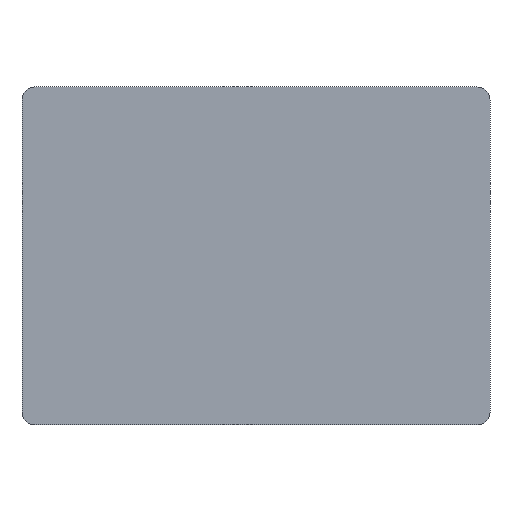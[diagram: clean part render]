
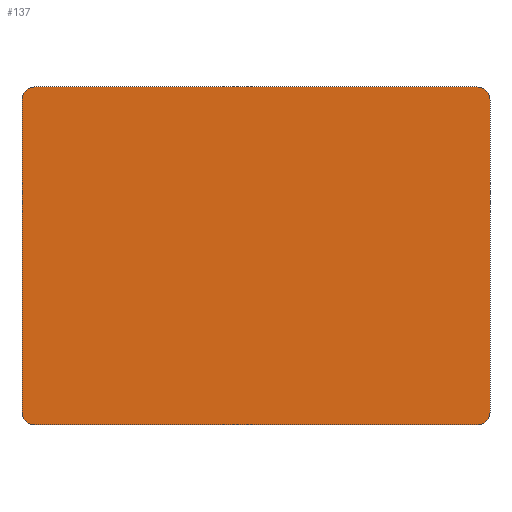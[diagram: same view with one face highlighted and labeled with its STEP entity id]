
A CAD part, front view. The second image highlights one B-rep face of the part: STEP entity #137.
In plain terms, the highlighted planar face has unit normal (0, -1, 0).
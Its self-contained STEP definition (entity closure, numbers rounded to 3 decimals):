
#21 = EDGE_CURVE('',#22,#24,#26,.T.);
#22 = VERTEX_POINT('',#23);
#23 = CARTESIAN_POINT('',(-27.,22.,66.));
#24 = VERTEX_POINT('',#25);
#25 = CARTESIAN_POINT('',(-27.,22.,102.));
#26 = SURFACE_CURVE('',#27,(#31,#43),.PCURVE_S1.);
#27 = LINE('',#28,#29);
#28 = CARTESIAN_POINT('',(-27.,22.,64.5));
#29 = VECTOR('',#30,1.);
#30 = DIRECTION('',(0.,0.,1.));
#31 = PCURVE('',#32,#37);
#32 = PLANE('',#33);
#33 = AXIS2_PLACEMENT_3D('',#34,#35,#36);
#34 = CARTESIAN_POINT('',(-27.,22.,64.5));
#35 = DIRECTION('',(1.,0.,-0.));
#36 = DIRECTION('',(0.,0.,1.));
#37 = DEFINITIONAL_REPRESENTATION('',(#38),#42);
#38 = LINE('',#39,#40);
#39 = CARTESIAN_POINT('',(0.,0.));
#40 = VECTOR('',#41,1.);
#41 = DIRECTION('',(1.,0.));
#42 = ( GEOMETRIC_REPRESENTATION_CONTEXT(2) 
PARAMETRIC_REPRESENTATION_CONTEXT() REPRESENTATION_CONTEXT('2D SPACE',''
  ) );
#43 = PCURVE('',#44,#49);
#44 = PLANE('',#45);
#45 = AXIS2_PLACEMENT_3D('',#46,#47,#48);
#46 = CARTESIAN_POINT('',(-27.,22.,64.5));
#47 = DIRECTION('',(-0.,1.,0.));
#48 = DIRECTION('',(0.,0.,1.));
#49 = DEFINITIONAL_REPRESENTATION('',(#50),#54);
#50 = LINE('',#51,#52);
#51 = CARTESIAN_POINT('',(0.,0.));
#52 = VECTOR('',#53,1.);
#53 = DIRECTION('',(1.,0.));
#54 = ( GEOMETRIC_REPRESENTATION_CONTEXT(2) 
PARAMETRIC_REPRESENTATION_CONTEXT() REPRESENTATION_CONTEXT('2D SPACE',''
  ) );
#72 = CYLINDRICAL_SURFACE('',#73,1.5);
#73 = AXIS2_PLACEMENT_3D('',#74,#75,#76);
#74 = CARTESIAN_POINT('',(-25.5,22.,66.));
#75 = DIRECTION('',(-0.,1.,0.));
#76 = DIRECTION('',(-1.,-0.,0.));
#126 = CYLINDRICAL_SURFACE('',#127,1.5);
#127 = AXIS2_PLACEMENT_3D('',#128,#129,#130);
#128 = CARTESIAN_POINT('',(-25.5,22.,102.));
#129 = DIRECTION('',(-0.,1.,0.));
#130 = DIRECTION('',(-1.,-0.,0.));
#137 = ADVANCED_FACE('',(#138),#44,.F.);
#138 = FACE_BOUND('',#139,.F.);
#139 = EDGE_LOOP('',(#140,#170,#196,#197,#221,#249,#282,#310));
#140 = ORIENTED_EDGE('',*,*,#141,.F.);
#141 = EDGE_CURVE('',#142,#144,#146,.T.);
#142 = VERTEX_POINT('',#143);
#143 = CARTESIAN_POINT('',(-25.5,22.,64.5));
#144 = VERTEX_POINT('',#145);
#145 = CARTESIAN_POINT('',(25.5,22.,64.5));
#146 = SURFACE_CURVE('',#147,(#151,#158),.PCURVE_S1.);
#147 = LINE('',#148,#149);
#148 = CARTESIAN_POINT('',(-27.,22.,64.5));
#149 = VECTOR('',#150,1.);
#150 = DIRECTION('',(1.,0.,-0.));
#151 = PCURVE('',#44,#152);
#152 = DEFINITIONAL_REPRESENTATION('',(#153),#157);
#153 = LINE('',#154,#155);
#154 = CARTESIAN_POINT('',(0.,0.));
#155 = VECTOR('',#156,1.);
#156 = DIRECTION('',(0.,1.));
#157 = ( GEOMETRIC_REPRESENTATION_CONTEXT(2) 
PARAMETRIC_REPRESENTATION_CONTEXT() REPRESENTATION_CONTEXT('2D SPACE',''
  ) );
#158 = PCURVE('',#159,#164);
#159 = PLANE('',#160);
#160 = AXIS2_PLACEMENT_3D('',#161,#162,#163);
#161 = CARTESIAN_POINT('',(-27.,22.,64.5));
#162 = DIRECTION('',(0.,0.,1.));
#163 = DIRECTION('',(1.,0.,-0.));
#164 = DEFINITIONAL_REPRESENTATION('',(#165),#169);
#165 = LINE('',#166,#167);
#166 = CARTESIAN_POINT('',(0.,0.));
#167 = VECTOR('',#168,1.);
#168 = DIRECTION('',(1.,0.));
#169 = ( GEOMETRIC_REPRESENTATION_CONTEXT(2) 
PARAMETRIC_REPRESENTATION_CONTEXT() REPRESENTATION_CONTEXT('2D SPACE',''
  ) );
#170 = ORIENTED_EDGE('',*,*,#171,.F.);
#171 = EDGE_CURVE('',#22,#142,#172,.T.);
#172 = SURFACE_CURVE('',#173,(#178,#189),.PCURVE_S1.);
#173 = CIRCLE('',#174,1.5);
#174 = AXIS2_PLACEMENT_3D('',#175,#176,#177);
#175 = CARTESIAN_POINT('',(-25.5,22.,66.));
#176 = DIRECTION('',(0.,-1.,0.));
#177 = DIRECTION('',(0.,0.,1.));
#178 = PCURVE('',#44,#179);
#179 = DEFINITIONAL_REPRESENTATION('',(#180),#188);
#180 = ( BOUNDED_CURVE() B_SPLINE_CURVE(2,(#181,#182,#183,#184,#185,#186
,#187),.UNSPECIFIED.,.T.,.F.) B_SPLINE_CURVE_WITH_KNOTS((1,2,2,2,2,1),(
    -2.094,0.,2.094,4.189,6.283,
8.378),.UNSPECIFIED.) CURVE() GEOMETRIC_REPRESENTATION_ITEM() 
RATIONAL_B_SPLINE_CURVE((1.,0.5,1.,0.5,1.,0.5,1.)) REPRESENTATION_ITEM(
  '') );
#181 = CARTESIAN_POINT('',(3.,1.5));
#182 = CARTESIAN_POINT('',(3.,-1.098));
#183 = CARTESIAN_POINT('',(0.75,0.201));
#184 = CARTESIAN_POINT('',(-1.5,1.5));
#185 = CARTESIAN_POINT('',(0.75,2.799));
#186 = CARTESIAN_POINT('',(3.,4.098));
#187 = CARTESIAN_POINT('',(3.,1.5));
#188 = ( GEOMETRIC_REPRESENTATION_CONTEXT(2) 
PARAMETRIC_REPRESENTATION_CONTEXT() REPRESENTATION_CONTEXT('2D SPACE',''
  ) );
#189 = PCURVE('',#72,#190);
#190 = DEFINITIONAL_REPRESENTATION('',(#191),#195);
#191 = LINE('',#192,#193);
#192 = CARTESIAN_POINT('',(1.571,-0.));
#193 = VECTOR('',#194,1.);
#194 = DIRECTION('',(-1.,0.));
#195 = ( GEOMETRIC_REPRESENTATION_CONTEXT(2) 
PARAMETRIC_REPRESENTATION_CONTEXT() REPRESENTATION_CONTEXT('2D SPACE',''
  ) );
#196 = ORIENTED_EDGE('',*,*,#21,.T.);
#197 = ORIENTED_EDGE('',*,*,#198,.T.);
#198 = EDGE_CURVE('',#24,#199,#201,.T.);
#199 = VERTEX_POINT('',#200);
#200 = CARTESIAN_POINT('',(-25.5,22.,103.5));
#201 = SURFACE_CURVE('',#202,(#207,#214),.PCURVE_S1.);
#202 = CIRCLE('',#203,1.5);
#203 = AXIS2_PLACEMENT_3D('',#204,#205,#206);
#204 = CARTESIAN_POINT('',(-25.5,22.,102.));
#205 = DIRECTION('',(-0.,1.,0.));
#206 = DIRECTION('',(0.,0.,1.));
#207 = PCURVE('',#44,#208);
#208 = DEFINITIONAL_REPRESENTATION('',(#209),#213);
#209 = CIRCLE('',#210,1.5);
#210 = AXIS2_PLACEMENT_2D('',#211,#212);
#211 = CARTESIAN_POINT('',(37.5,1.5));
#212 = DIRECTION('',(1.,0.));
#213 = ( GEOMETRIC_REPRESENTATION_CONTEXT(2) 
PARAMETRIC_REPRESENTATION_CONTEXT() REPRESENTATION_CONTEXT('2D SPACE',''
  ) );
#214 = PCURVE('',#126,#215);
#215 = DEFINITIONAL_REPRESENTATION('',(#216),#220);
#216 = LINE('',#217,#218);
#217 = CARTESIAN_POINT('',(-4.712,0.));
#218 = VECTOR('',#219,1.);
#219 = DIRECTION('',(1.,0.));
#220 = ( GEOMETRIC_REPRESENTATION_CONTEXT(2) 
PARAMETRIC_REPRESENTATION_CONTEXT() REPRESENTATION_CONTEXT('2D SPACE',''
  ) );
#221 = ORIENTED_EDGE('',*,*,#222,.T.);
#222 = EDGE_CURVE('',#199,#223,#225,.T.);
#223 = VERTEX_POINT('',#224);
#224 = CARTESIAN_POINT('',(25.5,22.,103.5));
#225 = SURFACE_CURVE('',#226,(#230,#237),.PCURVE_S1.);
#226 = LINE('',#227,#228);
#227 = CARTESIAN_POINT('',(-27.,22.,103.5));
#228 = VECTOR('',#229,1.);
#229 = DIRECTION('',(1.,0.,-0.));
#230 = PCURVE('',#44,#231);
#231 = DEFINITIONAL_REPRESENTATION('',(#232),#236);
#232 = LINE('',#233,#234);
#233 = CARTESIAN_POINT('',(39.,0.));
#234 = VECTOR('',#235,1.);
#235 = DIRECTION('',(0.,1.));
#236 = ( GEOMETRIC_REPRESENTATION_CONTEXT(2) 
PARAMETRIC_REPRESENTATION_CONTEXT() REPRESENTATION_CONTEXT('2D SPACE',''
  ) );
#237 = PCURVE('',#238,#243);
#238 = PLANE('',#239);
#239 = AXIS2_PLACEMENT_3D('',#240,#241,#242);
#240 = CARTESIAN_POINT('',(-27.,22.,103.5));
#241 = DIRECTION('',(0.,0.,1.));
#242 = DIRECTION('',(1.,0.,-0.));
#243 = DEFINITIONAL_REPRESENTATION('',(#244),#248);
#244 = LINE('',#245,#246);
#245 = CARTESIAN_POINT('',(0.,0.));
#246 = VECTOR('',#247,1.);
#247 = DIRECTION('',(1.,0.));
#248 = ( GEOMETRIC_REPRESENTATION_CONTEXT(2) 
PARAMETRIC_REPRESENTATION_CONTEXT() REPRESENTATION_CONTEXT('2D SPACE',''
  ) );
#249 = ORIENTED_EDGE('',*,*,#250,.F.);
#250 = EDGE_CURVE('',#251,#223,#253,.T.);
#251 = VERTEX_POINT('',#252);
#252 = CARTESIAN_POINT('',(27.,22.,102.));
#253 = SURFACE_CURVE('',#254,(#259,#270),.PCURVE_S1.);
#254 = CIRCLE('',#255,1.5);
#255 = AXIS2_PLACEMENT_3D('',#256,#257,#258);
#256 = CARTESIAN_POINT('',(25.5,22.,102.));
#257 = DIRECTION('',(0.,-1.,0.));
#258 = DIRECTION('',(0.,0.,1.));
#259 = PCURVE('',#44,#260);
#260 = DEFINITIONAL_REPRESENTATION('',(#261),#269);
#261 = ( BOUNDED_CURVE() B_SPLINE_CURVE(2,(#262,#263,#264,#265,#266,#267
,#268),.UNSPECIFIED.,.T.,.F.) B_SPLINE_CURVE_WITH_KNOTS((1,2,2,2,2,1),(
    -2.094,0.,2.094,4.189,6.283,
8.378),.UNSPECIFIED.) CURVE() GEOMETRIC_REPRESENTATION_ITEM() 
RATIONAL_B_SPLINE_CURVE((1.,0.5,1.,0.5,1.,0.5,1.)) REPRESENTATION_ITEM(
  '') );
#262 = CARTESIAN_POINT('',(39.,52.5));
#263 = CARTESIAN_POINT('',(39.,49.902));
#264 = CARTESIAN_POINT('',(36.75,51.201));
#265 = CARTESIAN_POINT('',(34.5,52.5));
#266 = CARTESIAN_POINT('',(36.75,53.799));
#267 = CARTESIAN_POINT('',(39.,55.098));
#268 = CARTESIAN_POINT('',(39.,52.5));
#269 = ( GEOMETRIC_REPRESENTATION_CONTEXT(2) 
PARAMETRIC_REPRESENTATION_CONTEXT() REPRESENTATION_CONTEXT('2D SPACE',''
  ) );
#270 = PCURVE('',#271,#276);
#271 = CYLINDRICAL_SURFACE('',#272,1.5);
#272 = AXIS2_PLACEMENT_3D('',#273,#274,#275);
#273 = CARTESIAN_POINT('',(25.5,22.,102.));
#274 = DIRECTION('',(-0.,1.,0.));
#275 = DIRECTION('',(1.,0.,-0.));
#276 = DEFINITIONAL_REPRESENTATION('',(#277),#281);
#277 = LINE('',#278,#279);
#278 = CARTESIAN_POINT('',(4.712,-0.));
#279 = VECTOR('',#280,1.);
#280 = DIRECTION('',(-1.,0.));
#281 = ( GEOMETRIC_REPRESENTATION_CONTEXT(2) 
PARAMETRIC_REPRESENTATION_CONTEXT() REPRESENTATION_CONTEXT('2D SPACE',''
  ) );
#282 = ORIENTED_EDGE('',*,*,#283,.F.);
#283 = EDGE_CURVE('',#284,#251,#286,.T.);
#284 = VERTEX_POINT('',#285);
#285 = CARTESIAN_POINT('',(27.,22.,66.));
#286 = SURFACE_CURVE('',#287,(#291,#298),.PCURVE_S1.);
#287 = LINE('',#288,#289);
#288 = CARTESIAN_POINT('',(27.,22.,64.5));
#289 = VECTOR('',#290,1.);
#290 = DIRECTION('',(0.,0.,1.));
#291 = PCURVE('',#44,#292);
#292 = DEFINITIONAL_REPRESENTATION('',(#293),#297);
#293 = LINE('',#294,#295);
#294 = CARTESIAN_POINT('',(0.,54.));
#295 = VECTOR('',#296,1.);
#296 = DIRECTION('',(1.,0.));
#297 = ( GEOMETRIC_REPRESENTATION_CONTEXT(2) 
PARAMETRIC_REPRESENTATION_CONTEXT() REPRESENTATION_CONTEXT('2D SPACE',''
  ) );
#298 = PCURVE('',#299,#304);
#299 = PLANE('',#300);
#300 = AXIS2_PLACEMENT_3D('',#301,#302,#303);
#301 = CARTESIAN_POINT('',(27.,22.,64.5));
#302 = DIRECTION('',(1.,0.,-0.));
#303 = DIRECTION('',(0.,0.,1.));
#304 = DEFINITIONAL_REPRESENTATION('',(#305),#309);
#305 = LINE('',#306,#307);
#306 = CARTESIAN_POINT('',(0.,0.));
#307 = VECTOR('',#308,1.);
#308 = DIRECTION('',(1.,0.));
#309 = ( GEOMETRIC_REPRESENTATION_CONTEXT(2) 
PARAMETRIC_REPRESENTATION_CONTEXT() REPRESENTATION_CONTEXT('2D SPACE',''
  ) );
#310 = ORIENTED_EDGE('',*,*,#311,.T.);
#311 = EDGE_CURVE('',#284,#144,#312,.T.);
#312 = SURFACE_CURVE('',#313,(#318,#325),.PCURVE_S1.);
#313 = CIRCLE('',#314,1.5);
#314 = AXIS2_PLACEMENT_3D('',#315,#316,#317);
#315 = CARTESIAN_POINT('',(25.5,22.,66.));
#316 = DIRECTION('',(-0.,1.,0.));
#317 = DIRECTION('',(0.,0.,1.));
#318 = PCURVE('',#44,#319);
#319 = DEFINITIONAL_REPRESENTATION('',(#320),#324);
#320 = CIRCLE('',#321,1.5);
#321 = AXIS2_PLACEMENT_2D('',#322,#323);
#322 = CARTESIAN_POINT('',(1.5,52.5));
#323 = DIRECTION('',(1.,0.));
#324 = ( GEOMETRIC_REPRESENTATION_CONTEXT(2) 
PARAMETRIC_REPRESENTATION_CONTEXT() REPRESENTATION_CONTEXT('2D SPACE',''
  ) );
#325 = PCURVE('',#326,#331);
#326 = CYLINDRICAL_SURFACE('',#327,1.5);
#327 = AXIS2_PLACEMENT_3D('',#328,#329,#330);
#328 = CARTESIAN_POINT('',(25.5,22.,66.));
#329 = DIRECTION('',(-0.,1.,0.));
#330 = DIRECTION('',(1.,0.,-0.));
#331 = DEFINITIONAL_REPRESENTATION('',(#332),#336);
#332 = LINE('',#333,#334);
#333 = CARTESIAN_POINT('',(-1.571,0.));
#334 = VECTOR('',#335,1.);
#335 = DIRECTION('',(1.,0.));
#336 = ( GEOMETRIC_REPRESENTATION_CONTEXT(2) 
PARAMETRIC_REPRESENTATION_CONTEXT() REPRESENTATION_CONTEXT('2D SPACE',''
  ) );
